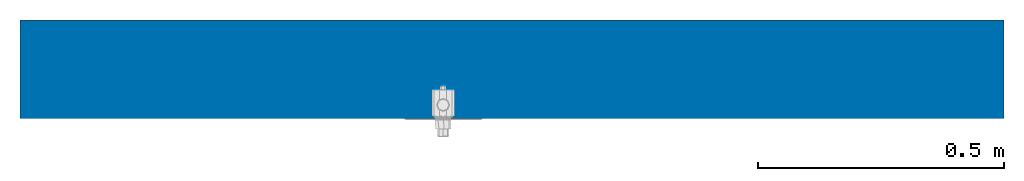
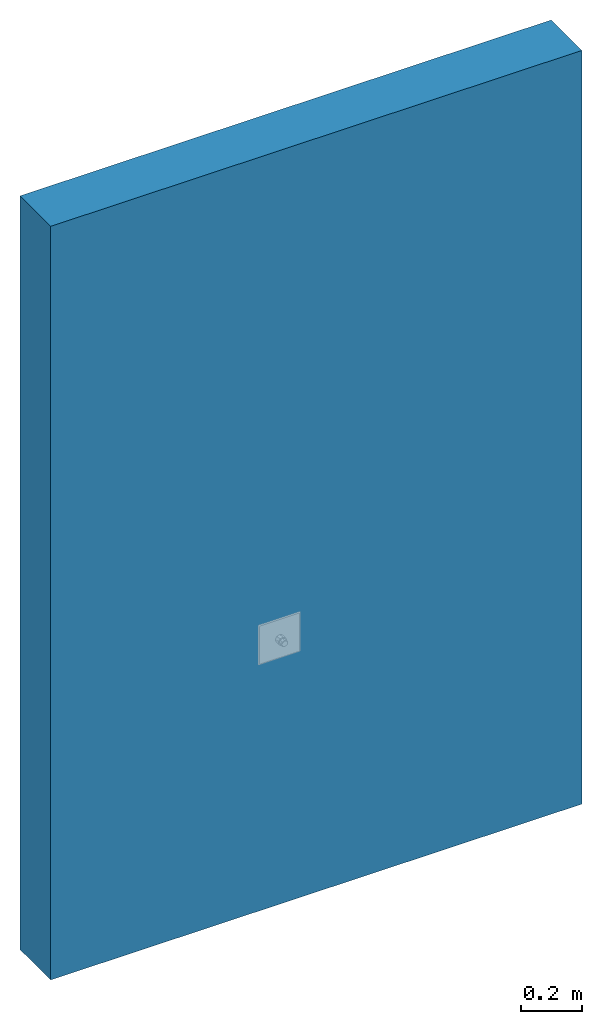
# One storey, incomplete: 1 wall.
"""IFC2X3 building model written with IfcOpenShell, lengths in millimetres."""

from ifc_helpers import new_model, entity, si_unit, converted_unit, frame, frame_2d, origin, place, context, project, spatial, rectangle, extrude, material, layer, layer_set, layer_usage, element, save


model = new_model("IFC2X3")

# Units and contexts
model_context = context("Model", 3, precision=1e-06, world=origin())
plan_context = context("Plan", 3, precision=1e-06, world=origin())
ifc_project = project(units=[si_unit("LENGTHUNIT", "METRE", prefix="MILLI"), si_unit("AREAUNIT", "SQUARE_METRE", prefix="MILLI"), si_unit("VOLUMEUNIT", "CUBIC_METRE", prefix="MILLI"), converted_unit("PLANEANGLEUNIT", "DEGREE", entity("IfcRatioMeasure", 0.01745329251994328), si_unit("PLANEANGLEUNIT", "RADIAN"), dimensions=[0, 0, 0, 0, 0, 0, 0]), si_unit("TIMEUNIT", "SECOND")], contexts=[model_context, plan_context])

# Site, building, storey
site_placement = place(None, origin())
site = spatial("IfcSite", under=ifc_project, at=site_placement, Name="Default", CompositionType="ELEMENT")
building_placement = place(site_placement, origin())
building = spatial("IfcBuilding", under=site, at=building_placement, CompositionType="ELEMENT")
storey_placement = place(building_placement, origin())
storey = spatial("IfcBuildingStorey", under=building, at=storey_placement, Name="Level 1", CompositionType="ELEMENT", Elevation=0.0)

# Wall
ifc_material = material(Name="Default Wall")
ifc_layer = layer(ifc_material, 200.0)
ifc_layer_set = layer_set([ifc_layer], Name="Basic Wall:Generic - 200mm")
ifc_layer_usage = layer_usage(ifc_layer_set, "AXIS2", "NEGATIVE", 100.0)
wall_placement = place(storey_placement, frame((-4044.018837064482, 878.0711596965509, 0.0)))
element("IfcWallStandardCase", 1, at=wall_placement, inside=storey, material=ifc_layer_usage, Name="Basic Wall:Generic - 200mm", ObjectType="Basic Wall:Generic - 200mm:398", context=model_context, shape_type="SweptSolid", body=[
    extrude(rectangle(XDim=2000.0, YDim=200.0, at=frame_2d((1000.0, 0.0), x_axis=(-1.0, 0.0))), origin(), (0.0, 0.0, 1.0), 3000.0),
])

save(model, "model.ifc")
